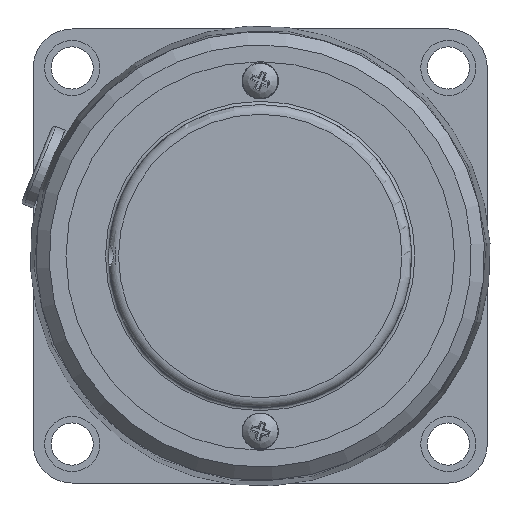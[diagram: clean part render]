
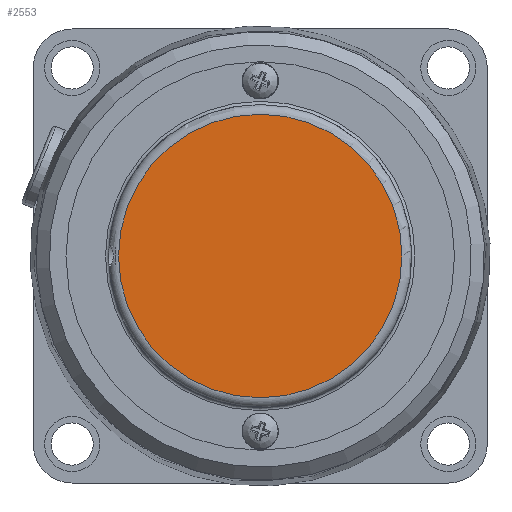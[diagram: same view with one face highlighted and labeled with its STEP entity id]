
A CAD part, left-side view. The second image highlights one B-rep face of the part: STEP entity #2553.
In plain terms, the highlighted planar face has unit normal (-1, 0, 0).
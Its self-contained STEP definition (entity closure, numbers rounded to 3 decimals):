
#129=CIRCLE('',#2774,21.85);
#365=FACE_OUTER_BOUND('',#527,.T.);
#527=EDGE_LOOP('',(#1820));
#1098=VERTEX_POINT('',#3957);
#1367=EDGE_CURVE('',#1098,#1098,#129,.T.);
#1820=ORIENTED_EDGE('',*,*,#1367,.F.);
#2444=PLANE('',#2777);
#2553=ADVANCED_FACE('',(#365),#2444,.F.);
#2774=AXIS2_PLACEMENT_3D('',#3959,#3183,#3184);
#2777=AXIS2_PLACEMENT_3D('',#4062,#3190,#3191);
#3183=DIRECTION('center_axis',(1.,0.,0.));
#3184=DIRECTION('ref_axis',(0.,0.,-1.));
#3190=DIRECTION('center_axis',(1.,0.,0.));
#3191=DIRECTION('ref_axis',(0.,0.,-1.));
#3957=CARTESIAN_POINT('',(-48.2,0.,21.85));
#3959=CARTESIAN_POINT('Origin',(-48.2,0.,0.));
#4062=CARTESIAN_POINT('Origin',(-48.2,0.,0.));
